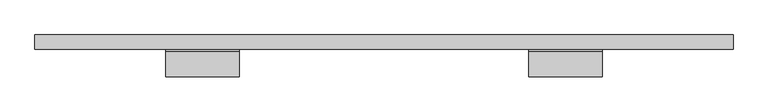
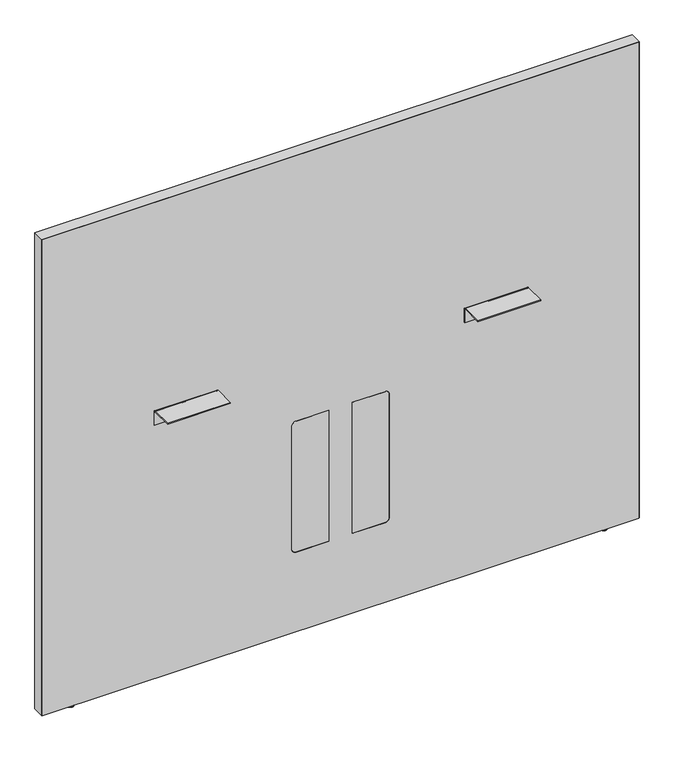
"""IFC4 building model written with IfcOpenShell, lengths in millimetres: furniture geometry, Steelcase - Answer Solution - Boundary Screen - Straight - Spanning : 48H x 57W."""

from ifc_helpers import new_model, si_unit, point, frame, frame_2d, origin, place, context, project, spatial, polyline, circle_curve, ellipse_curve, trimmed, segment, composite_curve, outline, extrude, source, transform, mapped, element, save
from ifc_brep_helpers import plane_surface, cylinder_surface, revolved_surface, advanced_brep


def furniture_6ebbc1dc(model_context):
    return source(origin(), model_context, "Body", "SolidModel", [
        advanced_brep(
        [(-416.8902705, -14.8449166, 9.9059849), (-416.8902705, -5.9309607, 9.9059849), (-416.8902705, -23.7588726, 9.9059849), (-416.8902705, -5.9309607, 2.9673238), (-416.8902705, -23.7588726, 2.9673238), (-416.8902705, -6.8982978, 2.9673238), (-416.8902705, -22.7915354, 2.9673238), (-416.8902705, -6.8982978, 1.6569081), (-416.8902705, -22.7915354, 1.6569081), (-416.8902705, -8.5552059, 0.0), (-416.8902705, -21.1346274, 0.0), (-416.8902705, -14.8449166, 0.0)],
        [
            (0, 1),
            (1, 2, circle_curve(frame((-416.8902705, -14.8449166, 9.9059849), z_axis=(0.0, 0.0, 1.0), x_axis=(0.0, 1.0, 0.0)), 8.913956)),
            (2, 0),
            (2, 1, circle_curve(frame((-416.8902705, -14.8449166, 9.9059849), z_axis=(0.0, 0.0, 1.0), x_axis=(0.0, 1.0, 0.0)), 8.913956)),
            (1, 3),
            (3, 4, circle_curve(frame((-416.8902705, -14.8449166, 2.9673238), z_axis=(0.0, 0.0, 1.0), x_axis=(0.0, 1.0, 0.0)), 8.913956)),
            (4, 2),
            (4, 3, circle_curve(frame((-416.8902705, -14.8449166, 2.9673238), z_axis=(0.0, 0.0, 1.0), x_axis=(0.0, 1.0, 0.0)), 8.913956)),
            (3, 5),
            (5, 6, circle_curve(frame((-416.8902705, -14.8449166, 2.9673238), z_axis=(0.0, 0.0, 1.0), x_axis=(0.0, 1.0, 0.0)), 7.9466188)),
            (6, 4),
            (6, 5, circle_curve(frame((-416.8902705, -14.8449166, 2.9673238), z_axis=(0.0, 0.0, 1.0), x_axis=(0.0, 1.0, 0.0)), 7.9466188)),
            (5, 7),
            (7, 8, circle_curve(frame((-416.8902705, -14.8449166, 1.6569081), z_axis=(0.0, 0.0, 1.0), x_axis=(0.0, 1.0, 0.0)), 7.9466188)),
            (8, 6),
            (8, 7, circle_curve(frame((-416.8902705, -14.8449166, 1.6569081), z_axis=(0.0, 0.0, 1.0), x_axis=(0.0, 1.0, 0.0)), 7.9466188)),
            (7, 9, circle_curve(frame((-416.8902705, -8.5552059, 1.6569081), z_axis=(-1.0, 0.0, 0.0), x_axis=(0.0, 1.0, 0.0)), 1.6569081)),
            (9, 10, circle_curve(frame((-416.8902705, -14.8449166, 0.0), z_axis=(0.0, 0.0, 1.0), x_axis=(0.0, 1.0, 0.0)), 6.2897107)),
            (10, 8, circle_curve(frame((-416.8902705, -21.1346274, 1.6569081), z_axis=(-1.0, 0.0, 0.0), x_axis=(0.0, -1.0, 0.0)), 1.6569081)),
            (10, 9, circle_curve(frame((-416.8902705, -14.8449166, 0.0), z_axis=(0.0, 0.0, 1.0), x_axis=(0.0, 1.0, 0.0)), 6.2897107)),
            (9, 11),
            (11, 10),
        ],
        [
            plane_surface(frame((-416.8902705, -14.8449166, 9.9059849), z_axis=(0.0, 0.0, 1.0), x_axis=(0.0, 1.0, 0.0))),
            cylinder_surface(frame((-416.8902705, -14.8449166, 9.9059849), z_axis=(0.0, 0.0, 1.0), x_axis=(0.0, 1.0, 0.0)), 8.913956),
            plane_surface(frame((-416.8902705, -14.8449166, 2.9673238), z_axis=(0.0, 0.0, -1.0), x_axis=(0.0, 1.0, 0.0))),
            cylinder_surface(frame((-416.8902705, -14.8449166, 9.9059849), z_axis=(0.0, 0.0, 1.0), x_axis=(0.0, 1.0, 0.0)), 7.9466188),
            revolved_surface(trimmed(ellipse_curve(frame((-416.8902705, -8.5552059, 1.6569081), z_axis=(1.0, 0.0, 0.0), x_axis=(0.0, 1.0, 0.0)), 1.6569081, 1.6569081), [point((-416.8902705, -8.5552059, 0.0))], [point((-416.8902705, -6.8982978, 1.6569081))], True, "CARTESIAN"), (-416.8902705, -14.8449166, 9.9059849), (0.0, 0.0, 1.0)),
            plane_surface(frame((-416.8902705, -14.8449166, 0.0), z_axis=(0.0, 0.0, -1.0), x_axis=(0.0, 1.0, 0.0))),
        ],
        [
            (0, [[1, 2, 3]]),
            (0, [[-3, 4, -1]]),
            (1, [[-2, 5, 6, 7]]),
            (1, [[-4, -7, 8, -5]]),
            (2, [[-6, 9, 10, 11]]),
            (2, [[-8, -11, 12, -9]]),
            (3, [[-10, 13, 14, 15]]),
            (3, [[-12, -15, 16, -13]]),
            (4, [[-14, 17, 18, 19]]),
            (4, [[-16, -19, 20, -17]]),
            (5, [[-18, 21, 22]]),
            (5, [[-20, -22, -21]]),
        ],
    ),
        extrude(outline(composite_curve([segment(polyline([(-86.8398151, 696.4680019), (-86.8398151, 698.5), (-34.9450855, 698.5)]), True, "CONTINUOUS"), segment(trimmed(circle_curve(frame_2d((-34.9450855, 693.2447477)), 5.2552523), [point((-34.9450855, 698.5))], [point((-29.6898332, 693.2447477))], False, "CARTESIAN"), True, "CONTINUOUS"), segment(polyline([(-29.6898332, 693.2447477), (-29.6898332, 660.4), (-31.7218162, 660.4), (-31.7218162, 693.0058743)]), True, "CONTINUOUS"), segment(trimmed(circle_curve(frame_2d((-35.1839438, 693.0058743)), 3.4621276), [point((-31.7218162, 693.0058743))], [point((-35.1839438, 696.4680019))], True, "CARTESIAN"), True, "CONTINUOUS"), segment(polyline([(-35.1839438, 696.4680019), (-86.8398151, 696.4680019)]), True, "CONTINUOUS")], self_intersect=False)), frame((529.7282189, 0.0, 0.0), z_axis=(1.0, 0.0, 0.0), x_axis=(0.0, 1.0, 0.0)), (0.0, 0.0, 1.0), 152.4000969),
        extrude(outline(composite_curve([segment(polyline([(-86.8398151, 696.4680019), (-86.8398151, 698.5), (-34.9450855, 698.5)]), True, "CONTINUOUS"), segment(trimmed(circle_curve(frame_2d((-34.9450855, 693.2447477)), 5.2552523), [point((-34.9450855, 698.5))], [point((-29.6898332, 693.2447477))], False, "CARTESIAN"), True, "CONTINUOUS"), segment(polyline([(-29.6898332, 693.2447477), (-29.6898332, 660.4), (-31.7218162, 660.4), (-31.7218162, 693.0058743)]), True, "CONTINUOUS"), segment(trimmed(circle_curve(frame_2d((-35.1839438, 693.0058743)), 3.4621276), [point((-31.7218162, 693.0058743))], [point((-35.1839438, 696.4680019))], True, "CARTESIAN"), True, "CONTINUOUS"), segment(polyline([(-35.1839438, 696.4680019), (-86.8398151, 696.4680019)]), True, "CONTINUOUS")], self_intersect=False)), frame((-222.4884581, 0.0, 0.0), z_axis=(1.0, 0.0, 0.0), x_axis=(0.0, 1.0, 0.0)), (0.0, 0.0, 1.0), 152.4000969),
        advanced_brep(
        [(876.5286488, -23.7588726, 9.9059849), (876.5286488, -5.9309607, 9.9059849), (876.5286488, -14.8449166, 9.9059849), (876.5286488, -23.7588726, 2.9673238), (876.5286488, -5.9309607, 2.9673238), (876.5286488, -22.7915354, 2.9673238), (876.5286488, -6.8982978, 2.9673238), (876.5286488, -22.7915354, 1.6569081), (876.5286488, -6.8982978, 1.6569081), (876.5286488, -21.1346274, 0.0), (876.5286488, -8.5552059, 0.0), (876.5286488, -14.8449166, 0.0)],
        [
            (0, 1, circle_curve(frame((876.5286488, -14.8449166, 9.9059849), z_axis=(0.0, 0.0, 1.0), x_axis=(0.0, 1.0, 0.0)), 8.913956)),
            (1, 2),
            (2, 0),
            (1, 0, circle_curve(frame((876.5286488, -14.8449166, 9.9059849), z_axis=(0.0, 0.0, 1.0), x_axis=(0.0, 1.0, 0.0)), 8.913956)),
            (3, 4, circle_curve(frame((876.5286488, -14.8449166, 2.9673238), z_axis=(0.0, 0.0, 1.0), x_axis=(0.0, 1.0, 0.0)), 8.913956)),
            (4, 1),
            (0, 3),
            (4, 3, circle_curve(frame((876.5286488, -14.8449166, 2.9673238), z_axis=(0.0, 0.0, 1.0), x_axis=(0.0, 1.0, 0.0)), 8.913956)),
            (5, 6, circle_curve(frame((876.5286488, -14.8449166, 2.9673238), z_axis=(0.0, 0.0, 1.0), x_axis=(0.0, 1.0, 0.0)), 7.9466188)),
            (6, 4),
            (3, 5),
            (6, 5, circle_curve(frame((876.5286488, -14.8449166, 2.9673238), z_axis=(0.0, 0.0, 1.0), x_axis=(0.0, 1.0, 0.0)), 7.9466188)),
            (7, 8, circle_curve(frame((876.5286488, -14.8449166, 1.6569081), z_axis=(0.0, 0.0, 1.0), x_axis=(0.0, 1.0, 0.0)), 7.9466188)),
            (8, 6),
            (5, 7),
            (8, 7, circle_curve(frame((876.5286488, -14.8449166, 1.6569081), z_axis=(0.0, 0.0, 1.0), x_axis=(0.0, 1.0, 0.0)), 7.9466188)),
            (9, 10, circle_curve(frame((876.5286488, -14.8449166, 0.0), z_axis=(0.0, 0.0, 1.0), x_axis=(0.0, 1.0, 0.0)), 6.2897107)),
            (10, 8, circle_curve(frame((876.5286488, -8.5552059, 1.6569081), z_axis=(1.0, 0.0, 0.0), x_axis=(0.0, 1.0, 0.0)), 1.6569081)),
            (7, 9, circle_curve(frame((876.5286488, -21.1346274, 1.6569081), z_axis=(1.0, 0.0, 0.0), x_axis=(0.0, -1.0, 0.0)), 1.6569081)),
            (10, 9, circle_curve(frame((876.5286488, -14.8449166, 0.0), z_axis=(0.0, 0.0, 1.0), x_axis=(0.0, 1.0, 0.0)), 6.2897107)),
            (11, 10),
            (9, 11),
        ],
        [
            plane_surface(frame((876.5286488, -14.8449166, 9.9059849), z_axis=(0.0, 0.0, 1.0), x_axis=(0.0, 1.0, 0.0))),
            cylinder_surface(frame((876.5286488, -14.8449166, 9.9059849), z_axis=(0.0, 0.0, -1.0), x_axis=(0.0, 1.0, 0.0)), 8.913956),
            plane_surface(frame((876.5286488, -14.8449166, 2.9673238), z_axis=(0.0, 0.0, -1.0), x_axis=(0.0, 1.0, 0.0))),
            cylinder_surface(frame((876.5286488, -14.8449166, 9.9059849), z_axis=(0.0, 0.0, -1.0), x_axis=(0.0, 1.0, 0.0)), 7.9466188),
            revolved_surface(trimmed(ellipse_curve(frame((876.5286488, -8.5552059, 1.6569081), z_axis=(-1.0, 0.0, 0.0), x_axis=(0.0, 1.0, 0.0)), 1.6569081, 1.6569081), [point((876.5286488, -6.8982978, 1.6569081))], [point((876.5286488, -8.5552059, 0.0))], True, "CARTESIAN"), (876.5286488, -14.8449166, 9.9059849), (0.0, 0.0, -1.0)),
            plane_surface(frame((876.5286488, -14.8449166, 0.0), z_axis=(0.0, 0.0, -1.0), x_axis=(0.0, 1.0, 0.0))),
        ],
        [
            (0, [[1, 2, 3]]),
            (0, [[4, -3, -2]]),
            (1, [[5, 6, -1, 7]]),
            (1, [[8, -7, -4, -6]]),
            (2, [[9, 10, -5, 11]]),
            (2, [[12, -11, -8, -10]]),
            (3, [[13, 14, -9, 15]]),
            (3, [[16, -15, -12, -14]]),
            (4, [[17, 18, -13, 19]]),
            (4, [[20, -19, -16, -18]]),
            (5, [[21, -17, 22]]),
            (5, [[-22, -20, -21]]),
        ],
    ),
        advanced_brep(
        [(952.6780168, 0.0, 1229.142118), (952.6780168, 0.0, 9.9059849), (-493.0902221, 0.0, 9.9059849), (-493.0902221, 0.0, 1229.142118), (952.6780168, -29.6898332, 1229.142118), (-493.0902221, -29.6898332, 1229.142118), (-493.0902221, -29.6898332, 9.9059849), (952.6780168, -29.6898332, 9.9059849), (337.7883813, -29.6898332, 549.6162029), (347.9483813, -29.6898332, 539.4562029), (347.9483813, -29.6898332, 223.9362137), (337.7883813, -29.6898332, 213.7762137), (258.1344836, -29.6898332, 213.7762137), (258.1344836, -29.6898332, 549.6162029), (121.849997, -29.6898332, 549.6162029), (201.5038947, -29.6898332, 549.6162029), (201.5038947, -29.6898332, 213.7762137), (121.849997, -29.6898332, 213.7762137), (111.689997, -29.6898332, 223.9362137), (111.689997, -29.6898332, 539.4562029), (258.1344836, -29.0550397, 549.6162029), (337.7883813, -29.0550397, 549.6162029), (258.1344836, -29.0550397, 213.7762137), (337.7883813, -29.0550397, 213.7762137), (347.9483813, -29.0550397, 223.9362137), (347.9483813, -29.0550397, 539.4562029), (121.849997, -29.0550397, 549.6162029), (111.689997, -29.0550397, 539.4562029), (111.689997, -29.0550397, 223.9362137), (121.849997, -29.0550397, 213.7762137), (201.5038947, -29.0550397, 213.7762137), (201.5038947, -29.0550397, 549.6162029)],
        [
            (0, 1),
            (1, 2),
            (2, 3),
            (3, 0),
            (4, 5),
            (5, 6),
            (6, 7),
            (7, 4),
            (8, 9, circle_curve(frame((337.7883813, -29.6898332, 539.4562029), z_axis=(0.0, 1.0, 0.0), x_axis=(0.0, 0.0, 1.0)), 10.16)),
            (9, 10),
            (10, 11, circle_curve(frame((337.7883813, -29.6898332, 223.9362137), z_axis=(0.0, 1.0, 0.0), x_axis=(0.0, 0.0, 1.0)), 10.16)),
            (11, 12),
            (12, 13),
            (13, 8),
            (14, 15),
            (15, 16),
            (16, 17),
            (17, 18, circle_curve(frame((121.849997, -29.6898332, 223.9362137), z_axis=(0.0, 1.0, 0.0), x_axis=(0.0, 0.0, 1.0)), 10.16)),
            (18, 19),
            (19, 14, circle_curve(frame((121.849997, -29.6898332, 539.4562029), z_axis=(0.0, 1.0, 0.0), x_axis=(0.0, 0.0, 1.0)), 10.16)),
            (0, 4),
            (7, 1),
            (6, 2),
            (5, 3),
            (13, 20),
            (20, 21),
            (21, 8),
            (12, 22),
            (22, 20),
            (11, 23),
            (23, 22),
            (10, 24),
            (24, 23, circle_curve(frame((337.7883813, -29.0550397, 223.9362137), z_axis=(0.0, 1.0, 0.0), x_axis=(0.0, 0.0, 1.0)), 10.16)),
            (9, 25),
            (25, 24),
            (21, 25, circle_curve(frame((337.7883813, -29.0550397, 539.4562029), z_axis=(0.0, 1.0, 0.0), x_axis=(0.0, 0.0, 1.0)), 10.16)),
            (26, 27, circle_curve(frame((121.849997, -29.0550397, 539.4562029), z_axis=(0.0, -1.0, 0.0), x_axis=(0.0, 0.0, 1.0)), 10.16)),
            (27, 28),
            (28, 29, circle_curve(frame((121.849997, -29.0550397, 223.9362137), z_axis=(0.0, -1.0, 0.0), x_axis=(0.0, 0.0, 1.0)), 10.16)),
            (29, 30),
            (30, 31),
            (31, 26),
            (19, 27),
            (26, 14),
            (18, 28),
            (17, 29),
            (16, 30),
            (15, 31),
        ],
        [
            plane_surface(frame((952.6780168, 0.0, 1229.142118), z_axis=(0.0, 1.0, 0.0), x_axis=(0.0, 0.0, -1.0))),
            plane_surface(frame((952.6780168, -29.6898332, 1229.142118), z_axis=(0.0, -1.0, 0.0), x_axis=(0.0, 0.0, 1.0))),
            plane_surface(frame((952.6780168, 0.0, 1229.142118), z_axis=(1.0, 0.0, 0.0), x_axis=(0.0, -1.0, 0.0))),
            plane_surface(frame((952.6780168, 0.0, 9.9059849), z_axis=(0.0, 0.0, -1.0), x_axis=(0.0, -1.0, 0.0))),
            plane_surface(frame((-493.0902221, 0.0, 9.9059849), z_axis=(-1.0, 0.0, 0.0), x_axis=(0.0, -1.0, 0.0))),
            plane_surface(frame((-493.0902221, 0.0, 1229.142118), z_axis=(0.0, 0.0, 1.0), x_axis=(0.0, -1.0, 0.0))),
            plane_surface(frame((337.7883813, 0.0, 549.6162029), z_axis=(0.0, 0.0, -1.0), x_axis=(0.0, -1.0, 0.0))),
            plane_surface(frame((258.1344836, 0.0, 549.6162029), z_axis=(1.0, 0.0, 0.0), x_axis=(0.0, -1.0, 0.0))),
            plane_surface(frame((258.1344836, 0.0, 213.7762137), z_axis=(0.0, 0.0, 1.0), x_axis=(0.0, -1.0, 0.0))),
            revolved_surface(polyline([(337.7883813, -29.6898332, 234.0962137), (337.7883813, -29.0550397, 234.0962137)]), (337.7883813, -29.6898332, 223.9362137), (0.0, -1.0, 0.0)),
            plane_surface(frame((347.9483813, 0.0, 223.9362137), z_axis=(-1.0, 0.0, 0.0), x_axis=(0.0, -1.0, 0.0))),
            revolved_surface(polyline([(337.7883813, -29.6898332, 549.6162029), (337.7883813, -29.0550397, 549.6162029)]), (337.7883813, -29.6898332, 539.4562029), (0.0, -1.0, 0.0)),
            plane_surface(frame((347.9483813, -29.0550397, 549.6162029), z_axis=(0.0, -1.0, 0.0), x_axis=(0.0, 0.0, 1.0))),
            revolved_surface(polyline([(121.849997, -29.6898332, 549.6162029), (121.849997, -29.0550397, 549.6162029)]), (121.849997, -29.6898332, 539.4562029), (0.0, -1.0, 0.0)),
            plane_surface(frame((111.689997, 0.0, 539.4562029), z_axis=(1.0, 0.0, 0.0), x_axis=(0.0, -1.0, 0.0))),
            revolved_surface(polyline([(121.849997, -29.6898332, 234.0962137), (121.849997, -29.0550397, 234.0962137)]), (121.849997, -29.6898332, 223.9362137), (0.0, -1.0, 0.0)),
            plane_surface(frame((121.849997, 0.0, 213.7762137), z_axis=(0.0, 0.0, 1.0), x_axis=(0.0, -1.0, 0.0))),
            plane_surface(frame((201.5038947, 0.0, 213.7762137), z_axis=(-1.0, 0.0, 0.0), x_axis=(0.0, -1.0, 0.0))),
            plane_surface(frame((201.5038947, 0.0, 549.6162029), z_axis=(0.0, 0.0, -1.0), x_axis=(0.0, -1.0, 0.0))),
        ],
        [
            (0, [[1, 2, 3, 4]]),
            (1, [[5, 6, 7, 8], [9, 10, 11, 12, 13, 14], [15, 16, 17, 18, 19, 20]]),
            (2, [[-1, 21, -8, 22]]),
            (3, [[-2, -22, -7, 23]]),
            (4, [[-3, -23, -6, 24]]),
            (5, [[-4, -24, -5, -21]]),
            (6, [[-14, 25, 26, 27]]),
            (7, [[-13, 28, 29, -25]]),
            (8, [[-12, 30, 31, -28]]),
            (9, [[-11, 32, 33, -30]]),
            (10, [[-10, 34, 35, -32]]),
            (11, [[-9, -27, 36, -34]]),
            (12, [[-26, -29, -31, -33, -35, -36]]),
            (12, [[37, 38, 39, 40, 41, 42]]),
            (13, [[-20, 43, -37, 44]]),
            (14, [[-19, 45, -38, -43]]),
            (15, [[-18, 46, -39, -45]]),
            (16, [[-17, 47, -40, -46]]),
            (17, [[-16, 48, -41, -47]]),
            (18, [[-15, -44, -42, -48]]),
        ],
    ),
        extrude(outline(composite_curve([segment(polyline([(549.6162029, 337.7883813), (549.6162029, 258.1344836), (213.7762137, 258.1344836), (213.7762137, 337.7883813)]), True, "CONTINUOUS"), segment(trimmed(circle_curve(frame_2d((223.9362137, 337.7883813)), 10.16), [point((213.7762137, 337.7883813))], [point((223.9362137, 347.9483813))], False, "CARTESIAN"), True, "CONTINUOUS"), segment(polyline([(223.9362137, 347.9483813), (539.4562029, 347.9483813)]), True, "CONTINUOUS"), segment(trimmed(circle_curve(frame_2d((539.4562029, 337.7883813)), 10.16), [point((539.4562029, 347.9483813))], [point((549.6162029, 337.7883813))], False, "CARTESIAN"), True, "CONTINUOUS")], self_intersect=False)), frame((0.0, -29.6898332, 0.0), z_axis=(0.0, 1.0, 0.0), x_axis=(0.0, 0.0, 1.0)), (0.0, 0.0, 1.0), 0.6347935),
        extrude(outline(composite_curve([segment(trimmed(circle_curve(frame_2d((539.4562029, 121.849997)), 10.16), [point((549.6162029, 121.849997))], [point((539.4562029, 111.689997))], False, "CARTESIAN"), True, "CONTINUOUS"), segment(polyline([(539.4562029, 111.689997), (223.9362137, 111.689997)]), True, "CONTINUOUS"), segment(trimmed(circle_curve(frame_2d((223.9362137, 121.849997)), 10.16), [point((223.9362137, 111.689997))], [point((213.7762137, 121.849997))], False, "CARTESIAN"), True, "CONTINUOUS"), segment(polyline([(213.7762137, 121.849997), (213.7762137, 201.5038947), (549.6162029, 201.5038947), (549.6162029, 121.849997)]), True, "CONTINUOUS")], self_intersect=False)), frame((0.0, -29.6898332, 0.0), z_axis=(0.0, 1.0, 0.0), x_axis=(0.0, 0.0, 1.0)), (0.0, 0.0, 1.0), 0.6347935),
        extrude(outline(polyline([(1230.122, 953.7191891), (1230.122, -494.0808109), (9.9059849, -494.0808109), (9.9059849, -493.0902221), (1229.142118, -493.0902221), (1229.142118, 952.6780168), (9.9059849, 952.6780168), (9.9059849, 953.7191891), (1230.122, 953.7191891)])), frame((0.0, -29.6898332, 0.0), z_axis=(0.0, 1.0, 0.0), x_axis=(0.0, 0.0, 1.0)), (0.0, 0.0, 1.0), 29.6898332),
    ])


if __name__ == "__main__":
    model = new_model("IFC4")
    model_context = context("Model", 3, world=origin())
    ifc_project = project(units=[si_unit("LENGTHUNIT", "METRE", prefix="MILLI")], contexts=[model_context])
    site = spatial("IfcSite", under=ifc_project)
    building = spatial("IfcBuilding", under=site)
    placement = place(None, origin())
    furniture_shape = furniture_6ebbc1dc(model_context)
    element("IfcFurniture", 1, ObjectType="Steelcase - Answer Solution - Boundary Screen - Straight - Spanning : 48H x 57W", at=placement, inside=building, context=model_context, shape_type="MappedRepresentation", body=[
        mapped(furniture_shape, transform((0.0, 0.0, 0.0), x_axis=(1.0, 0.0, 0.0), y_axis=(0.0, 1.0, 0.0), z_axis=(0.0, 0.0, 1.0))),
    ])
    save(model, "model.ifc")
